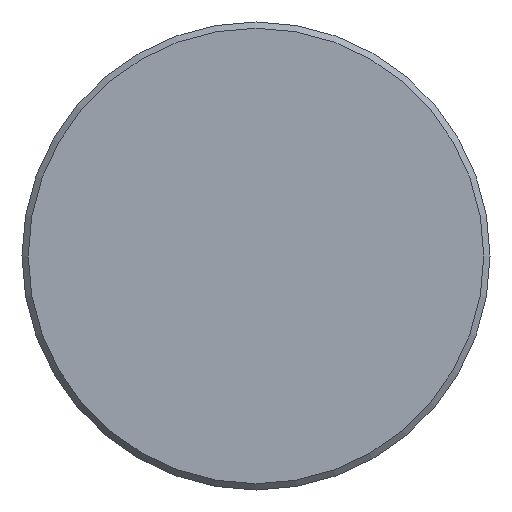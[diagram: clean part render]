
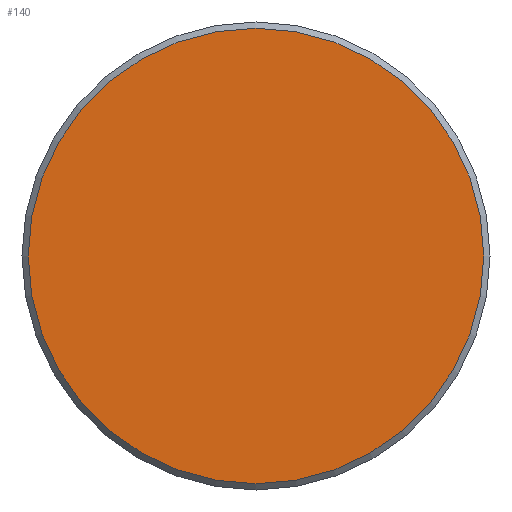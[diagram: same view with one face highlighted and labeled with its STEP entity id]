
A CAD part, front view. The second image highlights one B-rep face of the part: STEP entity #140.
In plain terms, the highlighted planar face has unit normal (0, -1, 0).
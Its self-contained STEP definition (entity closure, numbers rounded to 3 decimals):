
#140 = ADVANCED_FACE( '', ( #291 ), #292, .F. );
#291 = FACE_OUTER_BOUND( '', #487, .T. );
#292 = PLANE( '', #488 );
#487 = EDGE_LOOP( '', ( #671 ) );
#488 = AXIS2_PLACEMENT_3D( '', #672, #673, #674 );
#671 = ORIENTED_EDGE( '', *, *, #1092, .T. );
#672 = CARTESIAN_POINT( '', ( 29.2, 0., 0. ) );
#673 = DIRECTION( '', ( 0., 1., 0. ) );
#674 = DIRECTION( '', ( 0., 0., 1. ) );
#1092 = EDGE_CURVE( '', #1248, #1248, #1249, .T. );
#1248 = VERTEX_POINT( '', #1465 );
#1249 = CIRCLE( '', #1466, 29.2 );
#1465 = CARTESIAN_POINT( '', ( 0., 0., -29.2 ) );
#1466 = AXIS2_PLACEMENT_3D( '', #2005, #2006, #2007 );
#2005 = CARTESIAN_POINT( '', ( 0., 0., 0. ) );
#2006 = DIRECTION( '', ( 0., -1., 0. ) );
#2007 = DIRECTION( '', ( 0., 0., -1. ) );
